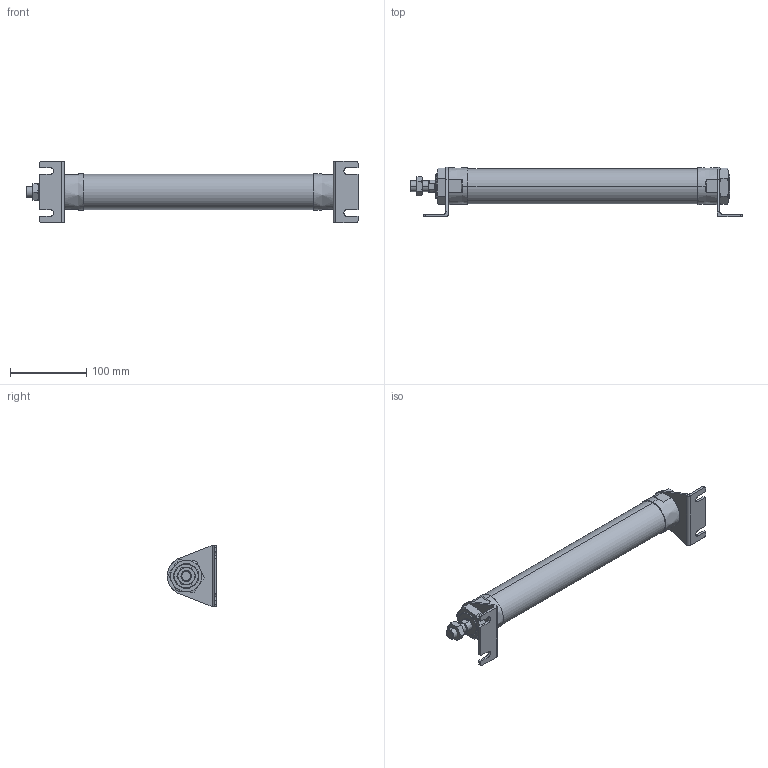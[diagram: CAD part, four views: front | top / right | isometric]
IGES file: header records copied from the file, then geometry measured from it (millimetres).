
Start section: SolidWorks IGES file using analytic representation for surfaces
Global section: file name: C:\Users\Toshiba\Desktop\J#2-40-250-L.IGS; native system: SolidWorks 2014; preprocessor: SolidWorks 2014; author: Toshiba; date: 160310.090832; units: millimetre
Bounding box: 435.2 x 65 x 80 mm (x, y, z)
Surface area: 92714.7 mm2 (no closed solid volume)
Topology: 0 solids, 0 shells, 170 faces, 3118 edges, 3114 vertices
Faces by surface type: bspline 107, revolution 63
